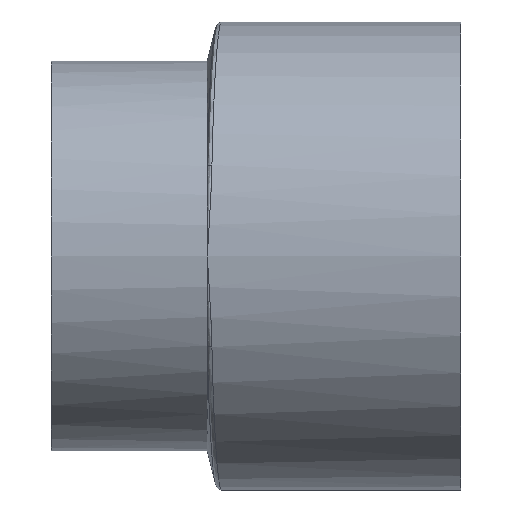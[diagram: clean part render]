
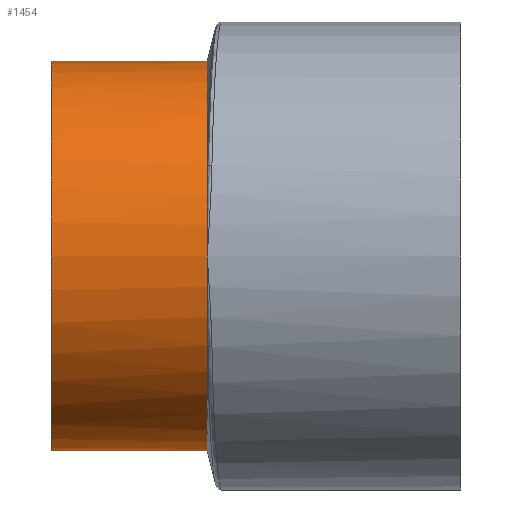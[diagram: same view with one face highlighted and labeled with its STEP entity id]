
A CAD part, front view. The second image highlights one B-rep face of the part: STEP entity #1454.
In plain terms, the highlighted cylindrical face has radius 31.75 mm (diameter 63.5 mm), a partial arc.
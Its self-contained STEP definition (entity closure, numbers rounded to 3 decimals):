
#9 = DIRECTION ( 'NONE',  ( 1., 0., 0. ) ) ;
#15 = DIRECTION ( 'NONE',  ( 0., 0., -1. ) ) ;
#39 = ORIENTED_EDGE ( 'NONE', *, *, #1152, .F. ) ;
#61 = VECTOR ( 'NONE', #789, 1000. ) ;
#92 = AXIS2_PLACEMENT_3D ( 'NONE', #974, #980, #985 ) ;
#100 = CARTESIAN_POINT ( 'NONE',  ( -66.675, -6.35, 31.75 ) ) ;
#147 = ORIENTED_EDGE ( 'NONE', *, *, #1360, .F. ) ;
#190 = ORIENTED_EDGE ( 'NONE', *, *, #1438, .F. ) ;
#227 = VERTEX_POINT ( 'NONE', #1276 ) ;
#255 = VERTEX_POINT ( 'NONE', #752 ) ;
#260 = EDGE_CURVE ( 'NONE', #631, #255, #625, .T. ) ;
#271 = CARTESIAN_POINT ( 'NONE',  ( -41.275, -6.35, -31.75 ) ) ;
#279 = CARTESIAN_POINT ( 'NONE',  ( -41.275, -34.546, 14.596 ) ) ;
#291 = LINE ( 'NONE', #1209, #61 ) ;
#337 = AXIS2_PLACEMENT_3D ( 'NONE', #801, #808, #811 ) ;
#342 = AXIS2_PLACEMENT_3D ( 'NONE', #1179, #9, #15 ) ;
#348 = ORIENTED_EDGE ( 'NONE', *, *, #915, .F. ) ;
#391 = ORIENTED_EDGE ( 'NONE', *, *, #442, .T. ) ;
#414 = AXIS2_PLACEMENT_3D ( 'NONE', #991, #957, #1312 ) ;
#442 = EDGE_CURVE ( 'NONE', #255, #1028, #291, .T. ) ;
#463 = ORIENTED_EDGE ( 'NONE', *, *, #1174, .F. ) ;
#488 = EDGE_LOOP ( 'NONE', ( #463, #560, #391, #348, #190, #147, #39 ) ) ;
#560 = ORIENTED_EDGE ( 'NONE', *, *, #260, .T. ) ;
#625 = CIRCLE ( 'NONE', #337, 31.75 ) ;
#631 = VERTEX_POINT ( 'NONE', #100 ) ;
#672 = VECTOR ( 'NONE', #972, 1000. ) ;
#699 = CARTESIAN_POINT ( 'NONE',  ( -41.275, -6.35, 0. ) ) ;
#704 = DIRECTION ( 'NONE',  ( 1., 0., 0. ) ) ;
#720 = DIRECTION ( 'NONE',  ( 0., 0., -1. ) ) ;
#752 = CARTESIAN_POINT ( 'NONE',  ( -66.675, -6.35, -31.75 ) ) ;
#784 = FACE_OUTER_BOUND ( 'NONE', #488, .T. ) ;
#789 = DIRECTION ( 'NONE',  ( 1., 0., 0. ) ) ;
#801 = CARTESIAN_POINT ( 'NONE',  ( -66.675, -6.35, 0. ) ) ;
#808 = DIRECTION ( 'NONE',  ( 1., 0., 0. ) ) ;
#811 = DIRECTION ( 'NONE',  ( 0., 0., -1. ) ) ;
#826 = CARTESIAN_POINT ( 'NONE',  ( -41.275, -38.1, 0. ) ) ;
#848 = VERTEX_POINT ( 'NONE', #1111 ) ;
#855 = AXIS2_PLACEMENT_3D ( 'NONE', #1054, #1059, #1063 ) ;
#915 = EDGE_CURVE ( 'NONE', #227, #1028, #1210, .T. ) ;
#957 = DIRECTION ( 'NONE',  ( 1., 0., 0. ) ) ;
#972 = DIRECTION ( 'NONE',  ( 1., 0., 0. ) ) ;
#974 = CARTESIAN_POINT ( 'NONE',  ( -41.275, -6.35, 0. ) ) ;
#980 = DIRECTION ( 'NONE',  ( 1., 0., 0. ) ) ;
#985 = DIRECTION ( 'NONE',  ( 0., 0., -1. ) ) ;
#991 = CARTESIAN_POINT ( 'NONE',  ( -31.597, -6.35, 0. ) ) ;
#1028 = VERTEX_POINT ( 'NONE', #271 ) ;
#1029 = VERTEX_POINT ( 'NONE', #279 ) ;
#1030 = CARTESIAN_POINT ( 'NONE',  ( -31.597, -6.35, 31.75 ) ) ;
#1054 = CARTESIAN_POINT ( 'NONE',  ( -41.275, -6.35, 0. ) ) ;
#1059 = DIRECTION ( 'NONE',  ( 1., 0., 0. ) ) ;
#1063 = DIRECTION ( 'NONE',  ( 0., 0., -1. ) ) ;
#1098 = VERTEX_POINT ( 'NONE', #826 ) ;
#1108 = CIRCLE ( 'NONE', #92, 31.75 ) ;
#1111 = CARTESIAN_POINT ( 'NONE',  ( -41.275, -6.35, 31.75 ) ) ;
#1152 = EDGE_CURVE ( 'NONE', #848, #1029, #1308, .T. ) ;
#1174 = EDGE_CURVE ( 'NONE', #631, #848, #1355, .T. ) ;
#1176 = CIRCLE ( 'NONE', #1442, 31.75 ) ;
#1179 = CARTESIAN_POINT ( 'NONE',  ( -41.275, -6.35, 0. ) ) ;
#1209 = CARTESIAN_POINT ( 'NONE',  ( -31.597, -6.35, -31.75 ) ) ;
#1210 = CIRCLE ( 'NONE', #342, 31.75 ) ;
#1276 = CARTESIAN_POINT ( 'NONE',  ( -41.275, -34.546, -14.596 ) ) ;
#1308 = CIRCLE ( 'NONE', #855, 31.75 ) ;
#1312 = DIRECTION ( 'NONE',  ( 0., 0., -1. ) ) ;
#1355 = LINE ( 'NONE', #1030, #672 ) ;
#1360 = EDGE_CURVE ( 'NONE', #1029, #1098, #1176, .T. ) ;
#1380 = CYLINDRICAL_SURFACE ( 'NONE', #414, 31.75 ) ;
#1438 = EDGE_CURVE ( 'NONE', #1098, #227, #1108, .T. ) ;
#1442 = AXIS2_PLACEMENT_3D ( 'NONE', #699, #704, #720 ) ;
#1454 = ADVANCED_FACE ( 'NONE', ( #784 ), #1380, .T. ) ;
